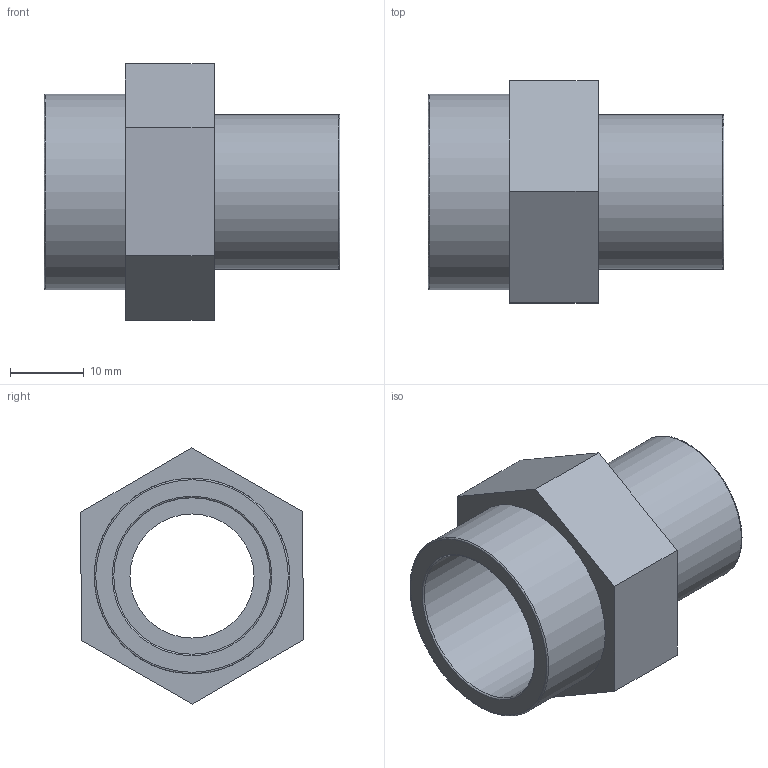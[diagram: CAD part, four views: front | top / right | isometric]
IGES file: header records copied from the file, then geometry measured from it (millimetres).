
Global section: file name: 051601007005.ipt; native system: Autodesk Inventor 2015; preprocessor: unknown; author: KIM; date: 20171207.165252; units: millimetre
Bounding box: 40 x 30.06 x 34.64 mm (x, y, z)
Volume: 9862.9 mm3; surface area: 6750.1 mm2
Topology: 1 solids, 1 shells, 19 faces, 50 edges, 36 vertices
Faces by surface type: plane 11, revolution 6, cylinder 2
Full cylindrical faces by diameter (mm): 20.955 x1, 26.441 x1
